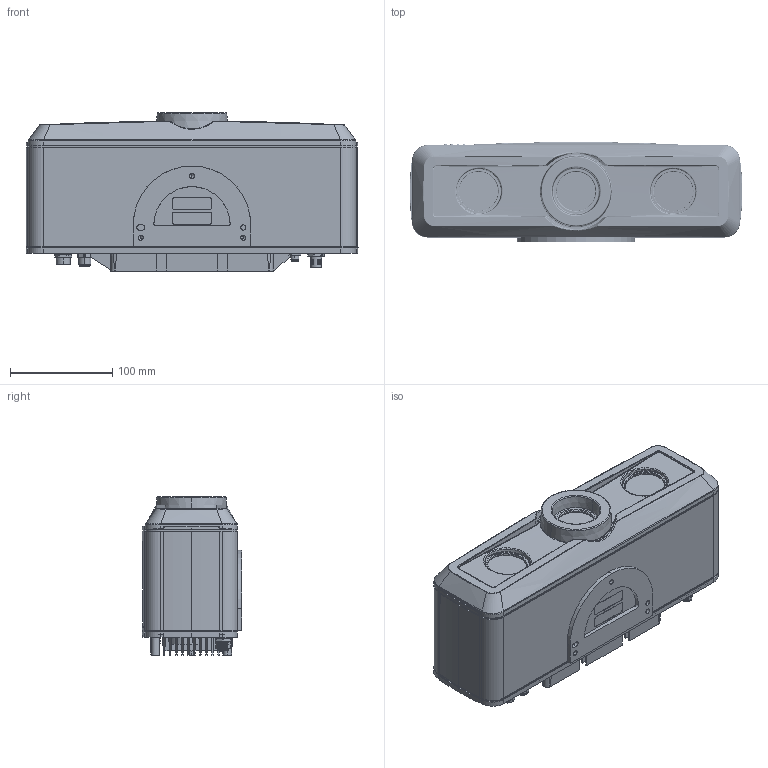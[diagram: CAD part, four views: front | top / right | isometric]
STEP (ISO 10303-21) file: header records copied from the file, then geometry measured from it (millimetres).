
FILE_DESCRIPTION (( 'STEP AP203' ), '1' );
FILE_NAME ('Lion20 Model A Businees Devopment GJC.STEP', '2018-11-08T21:52:32', ( '' ), ( '' ), 'SwSTEP 2.0', 'SolidWorks 2018', '' );
FILE_SCHEMA (( 'CONFIG_CONTROL_DESIGN' ));
Length unit declared in the file: millimetre
Products named in the file (21): 372-10246R; 182-10143R; Power Graphic Symbol; 119-1814R,821-0069-X; 182-10160R Version 2016; 585-10184R; 195-1033R; Lion20 Model A Businees Devopment GJC; 585-10188R; 415450_64.PRT; 182-1014R; 1436709_1.PRT; 182-10158R; 195-10153R; 372-10320R_Standard; 585-10184-1R; 114-10179R; Ethernet Graphic Symbol; 372-10248R; Model E Window Assembly; Trigger Graphic Symbol
Assembly tree (26 placements, depth 3):
  Lion20 Model A Businees Devopment GJC
    372-10248R
    372-10246R
    119-1814R,821-0069-X  x4
    195-1033R
    195-10153R
      415450_64.PRT
      1436709_1.PRT
    585-10184R
      585-10184-1R
      Ethernet Graphic Symbol  x2
      Trigger Graphic Symbol
      Power Graphic Symbol
    585-10188R
    182-1014R
    182-10158R
    Model E Window Assembly
      372-10320R_Standard
      114-10179R  x3
    182-10143R
    182-10160R Version 2016
Bounding box: 324 x 96.78 x 154.3 mm (x, y, z)
Volume: 707138.5 mm3; surface area: 440177.8 mm2
Topology: 24 solids, 25 shells, 4867 faces, 12941 edges, 8131 vertices
Faces by surface type: plane 1790, cylinder 1213, bspline 1023, cone 759, torus 63, sphere 19
Entity records: 194909 total; most frequent: CARTESIAN_POINT 83421, ORIENTED_EDGE 24966, DIRECTION 19862, EDGE_CURVE 12486, VERTEX_POINT 8006, AXIS2_PLACEMENT_3D 7086, VECTOR 5690, LINE 5690
